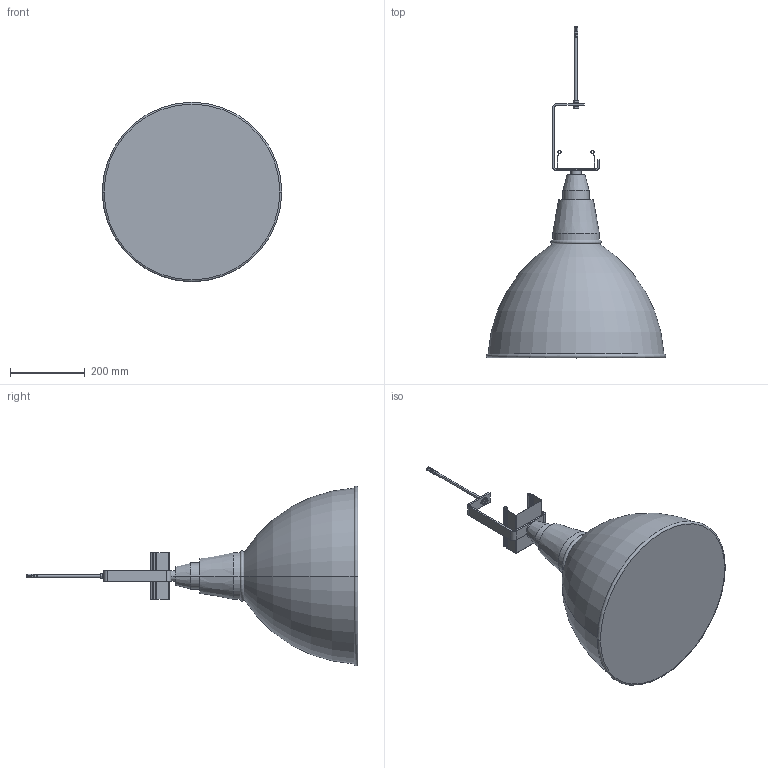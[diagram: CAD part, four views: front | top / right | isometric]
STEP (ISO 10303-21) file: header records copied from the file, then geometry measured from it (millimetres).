
FILE_DESCRIPTION (( 'STEP AP214' ), '1' );
FILE_NAME ('Ñâåòèëüíèê êóïîëüíûé + ËÏÌÇÒ (Ì)-100õ50 + ÑÏÏ-100 (ï).STEP', '2016-09-20T09:23:27', ( '' ), ( '' ), 'SwSTEP 2.0', 'SolidWorks 2016', '' );
FILE_SCHEMA (( 'AUTOMOTIVE_DESIGN' ));
Length unit declared in the file: millimetre
Products named in the file (9): 抔鴈 燴耪譇; Òðóáêà Àíêåðà çàáèâíîãî; 050915-050941 旆柉100; 064829 ØÏ8-2_˜¯¨«ìª  Œ8-6gx200 ƒŽ‘’ 22034-76; Ñâåòèëüíèê êóïîëüíûé; Ñâåòèëüíèê êóïîëüíûé + ËÏÌÇÒ (Ì)-100õ50 + ÑÏÏ-100 (ï); 067809 襟8捘_Hexagon Flange Nut DIN 6923 - M8 - N; Ëîòîê Îáðàç_100å50; ﾀ渼褞 鈞礪粹鵫
Assembly tree (9 placements, depth 3):
  Ñâåòèëüíèê êóïîëüíûé + ËÏÌÇÒ (Ì)-100õ50 + ÑÏÏ-100 (ï)
    Ñâåòèëüíèê êóïîëüíûé
    050915-050941 旆柉100
    Ëîòîê Îáðàç_100å50
    064829 ØÏ8-2_˜¯¨«ìª  Œ8-6gx200 ƒŽ‘’ 22034-76
    ﾀ渼褞 鈞礪粹鵫
      Òðóáêà Àíêåðà çàáèâíîãî
      抔鴈 燴耪譇
    067809 襟8捘_Hexagon Flange Nut DIN 6923 - M8 - N  x2
Bounding box: 480 x 887.5 x 480 mm (x, y, z)
Volume: 35947194.5 mm3; surface area: 739803.6 mm2
Topology: 8 solids, 8 shells, 266 faces, 633 edges, 386 vertices
Faces by surface type: plane 101, cylinder 73, torus 42, cone 38, bspline 12
Entity records: 7783 total; most frequent: CARTESIAN_POINT 2006, DIRECTION 1143, ORIENTED_EDGE 1126, EDGE_CURVE 563, AXIS2_PLACEMENT_3D 447, VERTEX_POINT 346, VECTOR 249, LINE 249
